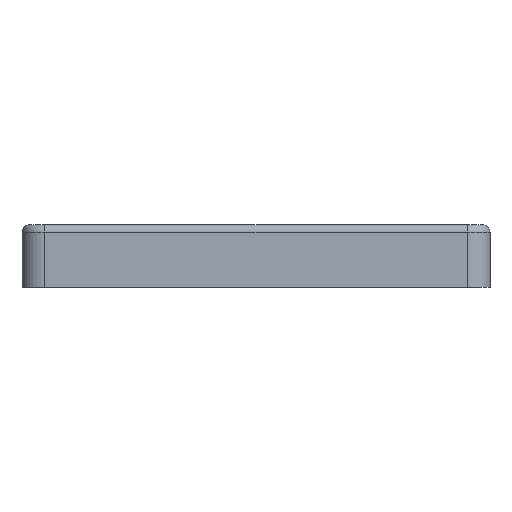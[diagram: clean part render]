
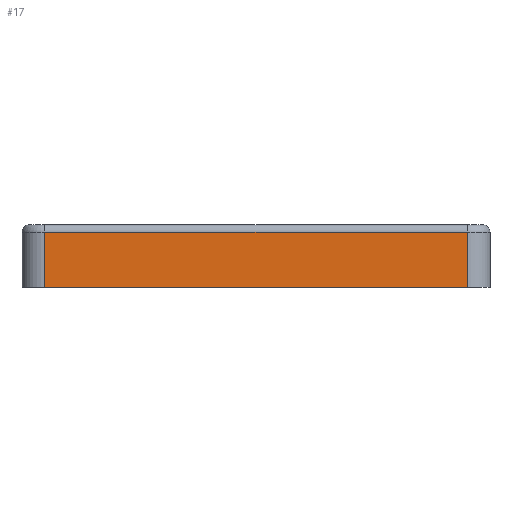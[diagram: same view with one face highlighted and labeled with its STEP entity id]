
A CAD part, front view. The second image highlights one B-rep face of the part: STEP entity #17.
In plain terms, the highlighted planar face has unit normal (0, -1, 0).
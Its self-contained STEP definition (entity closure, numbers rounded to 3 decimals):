
#17 = ADVANCED_FACE('',(#18),#32,.F.);
#18 = FACE_BOUND('',#19,.F.);
#19 = EDGE_LOOP('',(#20,#55,#83,#111));
#20 = ORIENTED_EDGE('',*,*,#21,.T.);
#21 = EDGE_CURVE('',#22,#24,#26,.T.);
#22 = VERTEX_POINT('',#23);
#23 = CARTESIAN_POINT('',(66.5,-180.3,0.7));
#24 = VERTEX_POINT('',#25);
#25 = CARTESIAN_POINT('',(66.5,-180.3,22.4));
#26 = SURFACE_CURVE('',#27,(#31,#43),.PCURVE_S1.);
#27 = LINE('',#28,#29);
#28 = CARTESIAN_POINT('',(66.5,-180.3,0.7));
#29 = VECTOR('',#30,1.);
#30 = DIRECTION('',(0.,0.,1.));
#31 = PCURVE('',#32,#37);
#32 = PLANE('',#33);
#33 = AXIS2_PLACEMENT_3D('',#34,#35,#36);
#34 = CARTESIAN_POINT('',(57.5,-180.3,0.7));
#35 = DIRECTION('',(0.,1.,0.));
#36 = DIRECTION('',(1.,0.,0.));
#37 = DEFINITIONAL_REPRESENTATION('',(#38),#42);
#38 = LINE('',#39,#40);
#39 = CARTESIAN_POINT('',(9.,0.));
#40 = VECTOR('',#41,1.);
#41 = DIRECTION('',(0.,-1.));
#42 = ( GEOMETRIC_REPRESENTATION_CONTEXT(2) 
PARAMETRIC_REPRESENTATION_CONTEXT() REPRESENTATION_CONTEXT('2D SPACE',''
  ) );
#43 = PCURVE('',#44,#49);
#44 = CYLINDRICAL_SURFACE('',#45,9.);
#45 = AXIS2_PLACEMENT_3D('',#46,#47,#48);
#46 = CARTESIAN_POINT('',(66.5,-171.3,0.7));
#47 = DIRECTION('',(0.,0.,1.));
#48 = DIRECTION('',(0.,-1.,0.));
#49 = DEFINITIONAL_REPRESENTATION('',(#50),#54);
#50 = LINE('',#51,#52);
#51 = CARTESIAN_POINT('',(-0.,0.));
#52 = VECTOR('',#53,1.);
#53 = DIRECTION('',(-0.,1.));
#54 = ( GEOMETRIC_REPRESENTATION_CONTEXT(2) 
PARAMETRIC_REPRESENTATION_CONTEXT() REPRESENTATION_CONTEXT('2D SPACE',''
  ) );
#55 = ORIENTED_EDGE('',*,*,#56,.T.);
#56 = EDGE_CURVE('',#24,#57,#59,.T.);
#57 = VERTEX_POINT('',#58);
#58 = CARTESIAN_POINT('',(232.6,-180.3,22.4));
#59 = SURFACE_CURVE('',#60,(#64,#71),.PCURVE_S1.);
#60 = LINE('',#61,#62);
#61 = CARTESIAN_POINT('',(66.5,-180.3,22.4));
#62 = VECTOR('',#63,1.);
#63 = DIRECTION('',(1.,0.,0.));
#64 = PCURVE('',#32,#65);
#65 = DEFINITIONAL_REPRESENTATION('',(#66),#70);
#66 = LINE('',#67,#68);
#67 = CARTESIAN_POINT('',(9.,-21.7));
#68 = VECTOR('',#69,1.);
#69 = DIRECTION('',(1.,0.));
#70 = ( GEOMETRIC_REPRESENTATION_CONTEXT(2) 
PARAMETRIC_REPRESENTATION_CONTEXT() REPRESENTATION_CONTEXT('2D SPACE',''
  ) );
#71 = PCURVE('',#72,#77);
#72 = CYLINDRICAL_SURFACE('',#73,3.);
#73 = AXIS2_PLACEMENT_3D('',#74,#75,#76);
#74 = CARTESIAN_POINT('',(66.5,-177.3,22.4));
#75 = DIRECTION('',(1.,0.,0.));
#76 = DIRECTION('',(0.,-1.,-0.));
#77 = DEFINITIONAL_REPRESENTATION('',(#78),#82);
#78 = LINE('',#79,#80);
#79 = CARTESIAN_POINT('',(-0.,0.));
#80 = VECTOR('',#81,1.);
#81 = DIRECTION('',(-0.,1.));
#82 = ( GEOMETRIC_REPRESENTATION_CONTEXT(2) 
PARAMETRIC_REPRESENTATION_CONTEXT() REPRESENTATION_CONTEXT('2D SPACE',''
  ) );
#83 = ORIENTED_EDGE('',*,*,#84,.F.);
#84 = EDGE_CURVE('',#85,#57,#87,.T.);
#85 = VERTEX_POINT('',#86);
#86 = CARTESIAN_POINT('',(232.6,-180.3,0.7));
#87 = SURFACE_CURVE('',#88,(#92,#99),.PCURVE_S1.);
#88 = LINE('',#89,#90);
#89 = CARTESIAN_POINT('',(232.6,-180.3,0.7));
#90 = VECTOR('',#91,1.);
#91 = DIRECTION('',(0.,0.,1.));
#92 = PCURVE('',#32,#93);
#93 = DEFINITIONAL_REPRESENTATION('',(#94),#98);
#94 = LINE('',#95,#96);
#95 = CARTESIAN_POINT('',(175.1,0.));
#96 = VECTOR('',#97,1.);
#97 = DIRECTION('',(0.,-1.));
#98 = ( GEOMETRIC_REPRESENTATION_CONTEXT(2) 
PARAMETRIC_REPRESENTATION_CONTEXT() REPRESENTATION_CONTEXT('2D SPACE',''
  ) );
#99 = PCURVE('',#100,#105);
#100 = CYLINDRICAL_SURFACE('',#101,9.);
#101 = AXIS2_PLACEMENT_3D('',#102,#103,#104);
#102 = CARTESIAN_POINT('',(232.6,-171.3,0.7));
#103 = DIRECTION('',(0.,0.,1.));
#104 = DIRECTION('',(0.,-1.,0.));
#105 = DEFINITIONAL_REPRESENTATION('',(#106),#110);
#106 = LINE('',#107,#108);
#107 = CARTESIAN_POINT('',(0.,0.));
#108 = VECTOR('',#109,1.);
#109 = DIRECTION('',(0.,1.));
#110 = ( GEOMETRIC_REPRESENTATION_CONTEXT(2) 
PARAMETRIC_REPRESENTATION_CONTEXT() REPRESENTATION_CONTEXT('2D SPACE',''
  ) );
#111 = ORIENTED_EDGE('',*,*,#112,.F.);
#112 = EDGE_CURVE('',#22,#85,#113,.T.);
#113 = SURFACE_CURVE('',#114,(#118,#125),.PCURVE_S1.);
#114 = LINE('',#115,#116);
#115 = CARTESIAN_POINT('',(57.5,-180.3,0.7));
#116 = VECTOR('',#117,1.);
#117 = DIRECTION('',(1.,0.,0.));
#118 = PCURVE('',#32,#119);
#119 = DEFINITIONAL_REPRESENTATION('',(#120),#124);
#120 = LINE('',#121,#122);
#121 = CARTESIAN_POINT('',(0.,0.));
#122 = VECTOR('',#123,1.);
#123 = DIRECTION('',(1.,0.));
#124 = ( GEOMETRIC_REPRESENTATION_CONTEXT(2) 
PARAMETRIC_REPRESENTATION_CONTEXT() REPRESENTATION_CONTEXT('2D SPACE',''
  ) );
#125 = PCURVE('',#126,#131);
#126 = PLANE('',#127);
#127 = AXIS2_PLACEMENT_3D('',#128,#129,#130);
#128 = CARTESIAN_POINT('',(149.55,-110.45,0.7));
#129 = DIRECTION('',(0.,0.,1.));
#130 = DIRECTION('',(1.,0.,-0.));
#131 = DEFINITIONAL_REPRESENTATION('',(#132),#136);
#132 = LINE('',#133,#134);
#133 = CARTESIAN_POINT('',(-92.05,-69.85));
#134 = VECTOR('',#135,1.);
#135 = DIRECTION('',(1.,0.));
#136 = ( GEOMETRIC_REPRESENTATION_CONTEXT(2) 
PARAMETRIC_REPRESENTATION_CONTEXT() REPRESENTATION_CONTEXT('2D SPACE',''
  ) );
